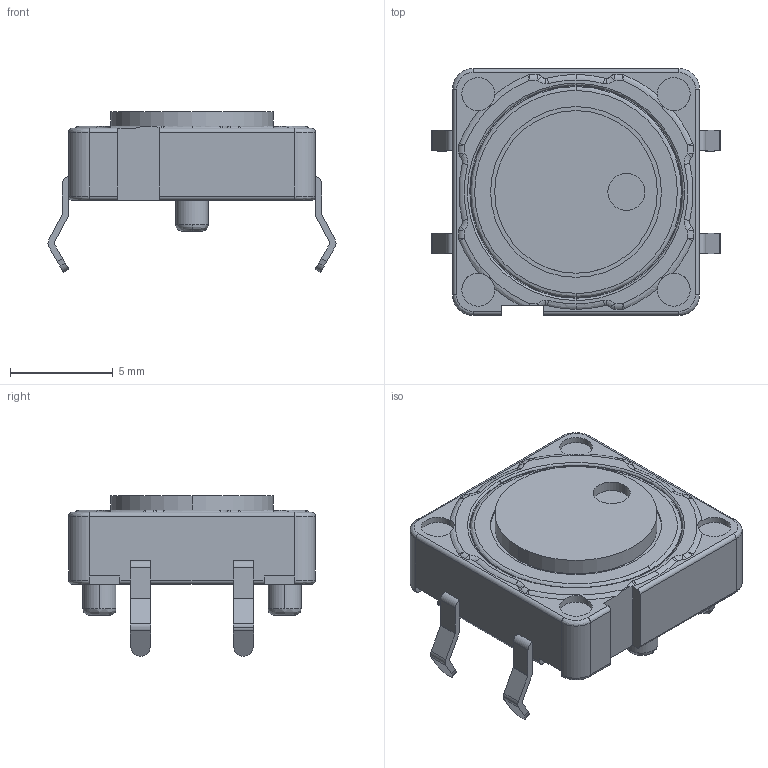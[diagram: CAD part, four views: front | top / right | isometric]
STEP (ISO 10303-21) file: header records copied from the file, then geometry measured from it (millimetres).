
FILE_DESCRIPTION (( 'STEP AP214' ), '1' );
FILE_NAME ('SKHCBK.STEP', '2012-09-25T02:50:03', ( ' ' ), ( '' ), 'SwSTEP 2.0', 'SolidWorks 2010', '' );
FILE_SCHEMA (( 'AUTOMOTIVE_DESIGN' ));
Length unit declared in the file: millimetre
Products named in the file (1): SKHCBK
Bounding box: 14 x 12 x 7.8 mm (x, y, z)
Volume: 544.9 mm3; surface area: 540.5 mm2
Topology: 1 solids, 1 shells, 200 faces, 549 edges, 358 vertices
Faces by surface type: plane 78, cylinder 68, bspline 54
Entity records: 9490 total; most frequent: CARTESIAN_POINT 2328, ORIENTED_EDGE 1098, DIRECTION 1010, EDGE_CURVE 549, AXIS2_PLACEMENT_3D 373, VERTEX_POINT 358, LINE 264, VECTOR 264
